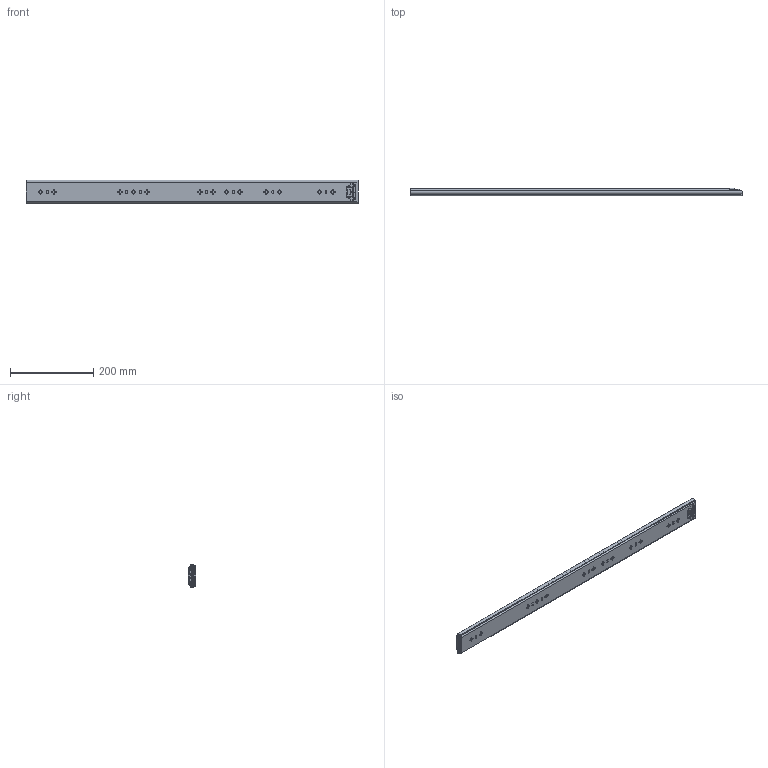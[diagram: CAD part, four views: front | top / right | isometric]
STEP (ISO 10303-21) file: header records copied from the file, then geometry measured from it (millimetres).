
FILE_DESCRIPTION((''),'2;1');
FILE_NAME('1057-02-32_ASM','2023-12-23T',('jishu015'),(''),'PRO/ENGINEER BY PARAMETRIC TECHNOLOGY CORPORATION, 2010280','PRO/ENGINEER BY PARAMETRIC TECHNOLOGY CORPORATION, 2010280','');
FILE_SCHEMA(('CONFIG_CONTROL_DESIGN'));
Products named in the file (14): KP-57-01WEIKE-18________; 1057WEIJIAO________; 1057DAZHUJIA-14GE________; 1057-5-6GANZHU________; 1057DAZHUJIA-14GE_________ASM; KP-57-01ZHONGGUI-18________; 57-ZHONGGUIDINWEIJIAN________; KP-57-01ZHONGGUI-18_________ASM; 1057XIAOZHUJIA________; 1057XIAOZHUJIA-14GE_________ASM; KP-57-01NEIGUI-18________; 45TIEBACHA________; KP-57-01NEIGUI-18_________ASM; 1057-02-32_ASM
Assembly tree (128 placements, depth 3):
  1057-02-32_ASM
    KP-57-01WEIKE-18________
    1057WEIJIAO________
    1057DAZHUJIA-14GE_________ASM
      1057DAZHUJIA-14GE________
      1057-5-6GANZHU________  x56
    KP-57-01ZHONGGUI-18_________ASM
      KP-57-01ZHONGGUI-18________
      57-ZHONGGUIDINWEIJIAN________
    1057XIAOZHUJIA-14GE_________ASM
      1057XIAOZHUJIA________
      1057-5-6GANZHU________  x60
    KP-57-01NEIGUI-18_________ASM
      KP-57-01NEIGUI-18________
      45TIEBACHA________
Bounding box: 800 x 19 x 57.67 mm (x, y, z)
Volume: 347105 mm3; surface area: 406541.6 mm2
Topology: 124 solids, 126 shells, 3279 faces, 9214 edges, 5712 vertices
Faces by surface type: plane 1523, cylinder 1344, sphere 240, cone 102, bspline 64, torus 6
Entity records: 102904 total; most frequent: CARTESIAN_POINT 20984, DIRECTION 17384, ORIENTED_EDGE 17020, EDGE_CURVE 8512, AXIS2_PLACEMENT_3D 5963, VERTEX_POINT 5482, VECTOR 5458, LINE 5458
